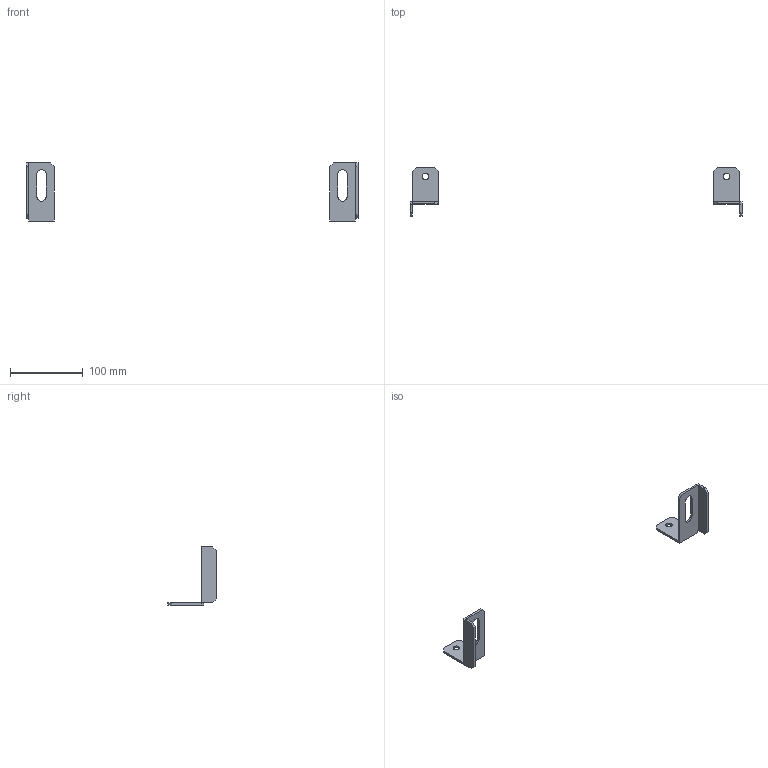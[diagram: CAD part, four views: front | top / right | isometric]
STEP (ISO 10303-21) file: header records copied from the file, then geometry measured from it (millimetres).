
FILE_DESCRIPTION(('Open CASCADE Model'),'2;1');
FILE_NAME('Open CASCADE Shape Model','2025-03-31T08:49:39',('Author'),( 'Open CASCADE'),'Open CASCADE STEP processor 7.8','Open CASCADE 7.8' ,'Unknown');
FILE_SCHEMA(('AUTOMOTIVE_DESIGN { 1 0 10303 214 1 1 1 1 }'));
Length unit declared in the file: millimetre
Products named in the file (3): Compound1; Solid1; Solid2
Assembly tree (2 placements, depth 2):
  Compound1
    Solid1
    Solid2
Bounding box: 456.6 x 67 x 80 mm (x, y, z)
Volume: 32524.7 mm3; surface area: 24566 mm2
Topology: 2 solids, 2 shells, 56 faces, 156 edges, 104 vertices
Faces by surface type: plane 50, cylinder 6
Full cylindrical faces by diameter (mm): 9 x2
Entity records: 1830 total; most frequent: CARTESIAN_POINT 321, ORIENTED_EDGE 312, DIRECTION 284, EDGE_CURVE 156, LINE 142, VECTOR 142, VERTEX_POINT 104, AXIS2_PLACEMENT_3D 71
